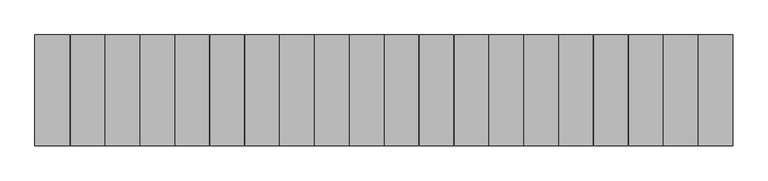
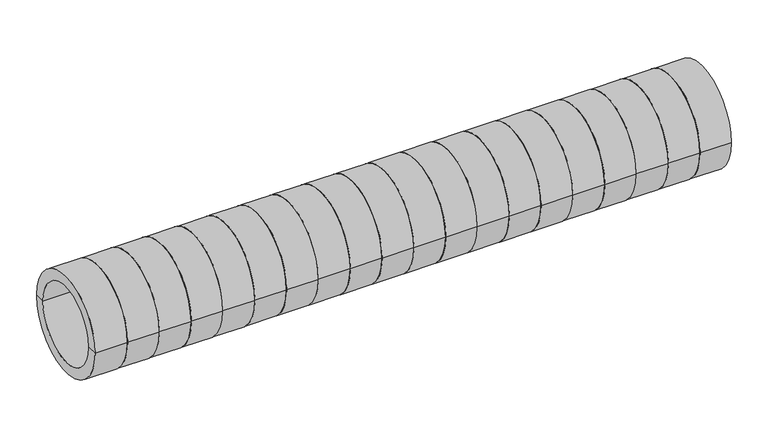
"""IFC4 building model written with IfcOpenShell, lengths in millimetres: duct fitting geometry, HEATPEX - ARIA ADURO - Rura 1m : HEATPEX - ARIA ADURO - Rura 1m."""

import ifcopenshell
import ifcopenshell.guid

model = None  # the IFC model being written
_history = None  # IfcOwnerHistory: only IFC2X3 demands one
_inside = {}  # id of a spatial element -> (the spatial element, [elements in it])
_under = {}  # id of a project, library or spatial element -> (it, [spatial elements below it])
_declared = {}  # id of a project -> (the project, [libraries it declares])
_typed = {}  # id of a type object -> (the type object, [elements of that type])
_made_of = {}  # id of a material, layer set ... -> (it, [elements and type objects made of it])


def new_model(schema):
    """Start an empty IFC model of exactly this schema.

    Asked for "IFC4X3", IfcOpenShell would pick the latest addendum, in which some entities
    have other attributes; the version numbers below select the first issue.
    IFC2X3 requires an IfcOwnerHistory on every rooted entity: one is made here for all.
    """
    global model, _history
    if schema == "IFC4X3":
        model = ifcopenshell.file(schema_version=(4, 3, 0, 0))
    else:
        model = ifcopenshell.file(schema=schema)
    _inside.clear()
    _under.clear()
    _declared.clear()
    _typed.clear()
    _made_of.clear()
    _history = None
    if model.schema == "IFC2X3":
        org = make("IfcOrganization", Name="unknown")
        user = make(
            "IfcPersonAndOrganization",
            ThePerson=make("IfcPerson", FamilyName="unknown"),
            TheOrganization=org,
        )
        app = make(
            "IfcApplication",
            ApplicationDeveloper=org,
            Version="unknown",
            ApplicationFullName="unknown",
            ApplicationIdentifier="unknown",
        )
        _history = make(
            "IfcOwnerHistory",
            OwningUser=user,
            OwningApplication=app,
            ChangeAction="ADDED",
            CreationDate=0,
        )
    return model


def make(cls, **values):
    """One entity of the class cls with the attributes given. An attribute that is None is left unset."""
    return model.create_entity(
        cls, **{name: value for name, value in values.items() if value is not None}
    )


def rooted(cls, **values):
    """An entity with a GlobalId (a new one), such as an element, a storey or a relation."""
    return make(cls, GlobalId=ifcopenshell.guid.new(), OwnerHistory=_history, **values)


def si_unit(unit_type, name, prefix=None):
    """IfcSIUnit, for example si_unit("LENGTHUNIT", "METRE", prefix="MILLI")."""
    return make("IfcSIUnit", UnitType=unit_type, Prefix=prefix, Name=name)


def assignment(units):
    """IfcUnitAssignment: the units of a project."""
    return None if units is None else make("IfcUnitAssignment", Units=units)


def point(xyz):
    """IfcCartesianPoint."""
    return None if xyz is None else make("IfcCartesianPoint", Coordinates=xyz)


def direction(xyz):
    """IfcDirection."""
    return None if xyz is None else make("IfcDirection", DirectionRatios=xyz)


def frame(location, z_axis=None, x_axis=None):
    """IfcAxis2Placement3D, a coordinate frame: its origin and axes. An axis left out is left unset."""
    return make(
        "IfcAxis2Placement3D",
        Location=point(location),
        Axis=direction(z_axis),
        RefDirection=direction(x_axis),
    )


def origin():
    """The frame at (0, 0, 0) with its axes left unset."""
    return frame((0.0, 0.0, 0.0))


def place(relative_to, where):
    """IfcLocalPlacement: puts the frame where relative to a parent placement (None: the world)."""
    return make(
        "IfcLocalPlacement", PlacementRelTo=relative_to, RelativePlacement=where
    )


def context(
    kind, dimensions, precision=None, world=None, true_north=None, identifier=None
):
    """IfcGeometricRepresentationContext, for example the 3D "Model" context."""
    return make(
        "IfcGeometricRepresentationContext",
        ContextIdentifier=identifier,
        ContextType=kind,
        CoordinateSpaceDimension=dimensions,
        Precision=precision,
        WorldCoordinateSystem=world,
        TrueNorth=true_north,
    )


def project(units=None, contexts=None):
    """IfcProject with its units and contexts."""
    return rooted(
        "IfcProject",
        Name="project",
        RepresentationContexts=contexts,
        UnitsInContext=assignment(units),
    )


def spatial(cls, under=None, at=None, **own):
    """A site, building, storey or space (cls), placed at a placement, below another one or the project."""
    s = rooted(cls, ObjectPlacement=at, **own)
    if under is not None:
        _under.setdefault(under.id(), (under, []))[1].append(s)
    return s


def polyline(points):
    """IfcPolyline through the points."""
    return make("IfcPolyline", Points=[point(p) for p in points])


def circle_curve(where, radius):
    """IfcCircle in the frame where."""
    return make("IfcCircle", Position=where, Radius=radius)


def shape(context_of_items, identifier, shape_type, items):
    """IfcShapeRepresentation: the items that make up one representation, for example the "Body"."""
    return make(
        "IfcShapeRepresentation",
        ContextOfItems=context_of_items,
        RepresentationIdentifier=identifier,
        RepresentationType=shape_type,
        Items=items,
    )


def source(mapping_origin, context_of_items, identifier, shape_type, items):
    """IfcRepresentationMap: a shape defined once, which mapped items show again and again."""
    return make(
        "IfcRepresentationMap",
        MappingOrigin=mapping_origin,
        MappedRepresentation=shape(context_of_items, identifier, shape_type, items),
    )


def transform(
    local_origin,
    x_axis=None,
    y_axis=None,
    z_axis=None,
    scale=None,
    scale2=None,
    scale3=None,
    uniform=True,
):
    """IfcCartesianTransformationOperator3D, or its non-uniform kind. x_axis, y_axis, z_axis: its Axis1, 2, 3."""
    if uniform:
        return make(
            "IfcCartesianTransformationOperator3D",
            Axis1=direction(x_axis),
            Axis2=direction(y_axis),
            LocalOrigin=point(local_origin),
            Scale=scale,
            Axis3=direction(z_axis),
        )
    return make(
        "IfcCartesianTransformationOperator3DnonUniform",
        Axis1=direction(x_axis),
        Axis2=direction(y_axis),
        LocalOrigin=point(local_origin),
        Scale=scale,
        Axis3=direction(z_axis),
        Scale2=scale2,
        Scale3=scale3,
    )


def mapped(mapping_source, mapping_target):
    """IfcMappedItem: shows the shape of a source again, moved by a transform."""
    return make(
        "IfcMappedItem", MappingSource=mapping_source, MappingTarget=mapping_target
    )


def made_of(thing, what):
    """Note that an element or type object is made of a material, layer set ...; save() writes the relation."""
    if what is not None:
        _made_of.setdefault(what.id(), (what, []))[1].append(thing)
    return thing


def element(
    cls,
    number,
    at=None,
    inside=None,
    cuts=None,
    type_object=None,
    material=None,
    context=None,
    identifier="Body",
    shape_type=None,
    held_by="IfcProductDefinitionShape",
    body=None,
    shapes=None,
    **own,
):
    """One element of the class cls, such as IfcWall. Its Tag is "e" and its number.

    at: its placement. inside: the storey or other place that contains it. cuts: it is an
    opening in that element (IfcRelVoidsElement). A single representation is given by context,
    identifier, shape_type and body (its items); several are given by shapes. held_by: the class
    of the entity that holds the representations. save() writes the other relations.
    """
    e = rooted(cls, Tag="e%d" % number, ObjectPlacement=at, **own)
    if body is not None:
        shapes = [shape(context, identifier, shape_type, body)]
    if shapes is not None:
        e.Representation = make(held_by, Representations=shapes)
    if inside is not None:
        _inside.setdefault(inside.id(), (inside, []))[1].append(e)
    if cuts is not None:
        rooted(
            "IfcRelVoidsElement", RelatingBuildingElement=cuts, RelatedOpeningElement=e
        )
    if type_object is not None:
        _typed.setdefault(type_object.id(), (type_object, []))[1].append(e)
    return made_of(e, material)


def aggregate(whole, parts):
    """IfcRelAggregates: a whole, such as a stair, and the parts it consists of."""
    return rooted("IfcRelAggregates", RelatingObject=whole, RelatedObjects=parts)


def save(model, path):
    """Write the relations noted so far, then the file.

    IfcRelAggregates (storeys below a building ...), IfcRelContainedInSpatialStructure (elements
    in a storey), IfcRelDefinesByType, IfcRelAssociatesMaterial and IfcRelDeclares: one each for
    every whole, place, type object, material and project.
    """
    for whole, parts in _under.values():
        aggregate(whole, parts)
    for where, things in _inside.values():
        rooted(
            "IfcRelContainedInSpatialStructure",
            RelatedElements=things,
            RelatingStructure=where,
        )
    for kind, things in _typed.values():
        rooted("IfcRelDefinesByType", RelatedObjects=things, RelatingType=kind)
    for what, things in _made_of.values():
        rooted("IfcRelAssociatesMaterial", RelatedObjects=things, RelatingMaterial=what)
    for by, libraries in _declared.values():
        rooted("IfcRelDeclares", RelatingContext=by, RelatedDefinitions=libraries)
    model.write(path)


def plane_surface(at):
    """IfcPlane: the flat surface through the origin of the frame at, square to its z axis."""
    return make("IfcPlane", Position=at)


def cylinder_surface(at, radius):
    """IfcCylindricalSurface: all points at the distance radius from the z axis of the frame at."""
    return make("IfcCylindricalSurface", Position=at, Radius=radius)


def revolved_surface(curve, axis_point, axis_direction):
    """IfcSurfaceOfRevolution: the curve turned about the line through axis_point along axis_direction."""
    return make(
        "IfcSurfaceOfRevolution",
        SweptCurve=make("IfcArbitraryOpenProfileDef", ProfileType="CURVE", Curve=curve),
        AxisPosition=make("IfcAxis1Placement", Location=point(axis_point), Axis=direction(axis_direction)),
    )


def advanced_brep(points, edges, surfaces, faces):
    """IfcAdvancedBrep: a solid bounded by faces that lie on surfaces and meet in shared edges.

    An edge is (start, end): straight between two places in points (the first is 0);
    or (start, end, curve); or (start, end, curve, False) where it runs against its curve.
    A face is (place in surfaces, loops), or (place, loops, False) where it looks against
    its surface's normal. A loop lists edges by number (the first is 1), with a minus sign
    where the edge is run from its end to its start. The first loop is the outer one.
    """
    corners = [point(p) for p in points]
    vertices = [make("IfcVertexPoint", VertexGeometry=c) for c in corners]
    made = []
    for start, end, *more in edges:
        made.append(
            make(
                "IfcEdgeCurve",
                EdgeStart=vertices[start],
                EdgeEnd=vertices[end],
                EdgeGeometry=more[0] if more else make("IfcPolyline", Points=[corners[start], corners[end]]),
                SameSense=more[1] if len(more) > 1 else True,
            )
        )
    hull = []
    for where, loops, *sense in faces:
        bounds = []
        for j, loop in enumerate(loops):
            ring = [make("IfcOrientedEdge", EdgeElement=made[abs(k) - 1], Orientation=k > 0) for k in loop]
            bounds.append(
                make(
                    "IfcFaceOuterBound" if j == 0 else "IfcFaceBound",
                    Bound=make("IfcEdgeLoop", EdgeList=ring),
                    Orientation=True,
                )
            )
        hull.append(make("IfcAdvancedFace", Bounds=bounds, FaceSurface=surfaces[where], SameSense=sense[0] if sense else True))
    return make("IfcAdvancedBrep", Outer=make("IfcClosedShell", CfsFaces=hull))


def duct_fitting_a0ea5269(model_context):
    return source(origin(), model_context, "Body", "AdvancedBrep", [
        advanced_brep(
        [(1000.0, -79.5, 0.0), (1000.0, 79.5, 0.0), (1000.0, 62.5, 0.0), (1000.0, -62.5, 0.0), (0.0, -79.5, 0.0), (0.0, 79.5, 0.0), (50.0, 79.5, 0.0), (50.0, -79.5, 0.0), (0.0, -62.5, 0.0), (0.0, 62.5, 0.0), (951.0, -79.5, 0.0), (951.0, 79.5, 0.0), (951.0, -78.5, 0.0), (951.0, 78.5, 0.0), (950.0, -78.5, 0.0), (950.0, 78.5, 0.0), (950.0, -79.5, 0.0), (950.0, 79.5, 0.0), (901.0, -79.5, 0.0), (901.0, 79.5, 0.0), (901.0, -78.5, 0.0), (901.0, 78.5, 0.0), (900.0, -78.5, 0.0), (900.0, 78.5, 0.0), (900.0, -79.5, 0.0), (900.0, 79.5, 0.0), (851.0, -79.5, 0.0), (851.0, 79.5, 0.0), (851.0, -78.5, 0.0), (851.0, 78.5, 0.0), (850.0, -78.5, 0.0), (850.0, 78.5, 0.0), (850.0, -79.5, 0.0), (850.0, 79.5, 0.0), (801.0, -79.5, 0.0), (801.0, 79.5, 0.0), (801.0, -78.5, 0.0), (801.0, 78.5, 0.0), (800.0, -78.5, 0.0), (800.0, 78.5, 0.0), (800.0, -79.5, 0.0), (800.0, 79.5, 0.0), (751.0, -79.5, 0.0), (751.0, 79.5, 0.0), (751.0, -78.5, 0.0), (751.0, 78.5, 0.0), (750.0, -78.5, 0.0), (750.0, 78.5, 0.0), (750.0, -79.5, 0.0), (750.0, 79.5, 0.0), (701.0, -79.5, 0.0), (701.0, 79.5, 0.0), (701.0, -78.5, 0.0), (701.0, 78.5, 0.0), (700.0, -78.5, 0.0), (700.0, 78.5, 0.0), (700.0, -79.5, 0.0), (700.0, 79.5, 0.0), (651.0, -79.5, 0.0), (651.0, 79.5, 0.0), (651.0, -78.5, 0.0), (651.0, 78.5, 0.0), (650.0, -78.5, 0.0), (650.0, 78.5, 0.0), (650.0, -79.5, 0.0), (650.0, 79.5, 0.0), (601.0, -79.5, 0.0), (601.0, 79.5, 0.0), (601.0, -78.5, 0.0), (601.0, 78.5, 0.0), (600.0, -78.5, 0.0), (600.0, 78.5, 0.0), (600.0, -79.5, 0.0), (600.0, 79.5, 0.0), (551.0, -79.5, 0.0), (551.0, 79.5, 0.0), (551.0, -78.5, 0.0), (551.0, 78.5, 0.0), (550.0, -78.5, 0.0), (550.0, 78.5, 0.0), (550.0, -79.5, 0.0), (550.0, 79.5, 0.0), (501.0, -79.5, 0.0), (501.0, 79.5, 0.0), (501.0, -78.5, 0.0), (501.0, 78.5, 0.0), (500.0, -78.5, 0.0), (500.0, 78.5, 0.0), (500.0, -79.5, 0.0), (500.0, 79.5, 0.0), (451.0, -79.5, 0.0), (451.0, 79.5, 0.0), (451.0, -78.5, 0.0), (451.0, 78.5, 0.0), (450.0, -78.5, 0.0), (450.0, 78.5, 0.0), (450.0, -79.5, 0.0), (450.0, 79.5, 0.0), (401.0, -79.5, 0.0), (401.0, 79.5, 0.0), (401.0, -78.5, 0.0), (401.0, 78.5, 0.0), (400.0, -78.5, 0.0), (400.0, 78.5, 0.0), (400.0, -79.5, 0.0), (400.0, 79.5, 0.0), (351.0, -79.5, 0.0), (351.0, 79.5, 0.0), (351.0, -78.5, 0.0), (351.0, 78.5, 0.0), (350.0, -78.5, 0.0), (350.0, 78.5, 0.0), (350.0, -79.5, 0.0), (350.0, 79.5, 0.0), (301.0, -79.5, 0.0), (301.0, 79.5, 0.0), (301.0, -78.5, 0.0), (301.0, 78.5, 0.0), (300.0, -78.5, 0.0), (300.0, 78.5, 0.0), (300.0, -79.5, 0.0), (300.0, 79.5, 0.0), (251.0, -79.5, 0.0), (251.0, 79.5, 0.0), (251.0, -78.5, 0.0), (251.0, 78.5, 0.0), (250.0, -78.5, 0.0), (250.0, 78.5, 0.0), (250.0, -79.5, 0.0), (250.0, 79.5, 0.0), (201.0, -79.5, 0.0), (201.0, 79.5, 0.0), (201.0, -78.5, 0.0), (201.0, 78.5, 0.0), (200.0, -78.5, 0.0), (200.0, 78.5, 0.0), (200.0, -79.5, 0.0), (200.0, 79.5, 0.0), (151.0, -79.5, 0.0), (151.0, 79.5, 0.0), (151.0, -78.5, 0.0), (151.0, 78.5, 0.0), (150.0, -78.5, 0.0), (150.0, 78.5, 0.0), (150.0, -79.5, 0.0), (150.0, 79.5, 0.0), (101.0, -79.5, 0.0), (101.0, 79.5, 0.0), (101.0, -78.5, 0.0), (101.0, 78.5, 0.0), (100.0, -78.5, 0.0), (100.0, 78.5, 0.0), (100.0, -79.5, 0.0), (100.0, 79.5, 0.0), (51.0, -79.5, 0.0), (51.0, 79.5, 0.0), (51.0, -78.5, 0.0), (51.0, 78.5, 0.0), (50.0, -78.5, 0.0), (50.0, 78.5, 0.0)],
        [
            (0, 1, circle_curve(frame((1000.0, 0.0, 0.0), z_axis=(1.0, 0.0, 0.0), x_axis=(0.0, 1.0, 0.0)), 79.5)),
            (1, 2),
            (2, 3, circle_curve(frame((1000.0, 0.0, 0.0), z_axis=(-1.0, 0.0, 0.0), x_axis=(0.0, 1.0, 0.0)), 62.5)),
            (3, 0),
            (1, 0, circle_curve(frame((1000.0, 0.0, 0.0), z_axis=(1.0, 0.0, 0.0), x_axis=(0.0, 1.0, 0.0)), 79.5)),
            (3, 2, circle_curve(frame((1000.0, 0.0, 0.0), z_axis=(-1.0, 0.0, 0.0), x_axis=(0.0, 1.0, 0.0)), 62.5)),
            (4, 5, circle_curve(frame((0.0, 0.0, 0.0), z_axis=(1.0, 0.0, 0.0), x_axis=(0.0, 1.0, 0.0)), 79.5)),
            (5, 6),
            (6, 7, circle_curve(frame((50.0, 0.0, 0.0), z_axis=(-1.0, 0.0, 0.0), x_axis=(0.0, 1.0, 0.0)), 79.5)),
            (7, 4),
            (5, 4, circle_curve(frame((0.0, 0.0, 0.0), z_axis=(1.0, 0.0, 0.0), x_axis=(0.0, 1.0, 0.0)), 79.5)),
            (7, 6, circle_curve(frame((50.0, 0.0, 0.0), z_axis=(-1.0, 0.0, 0.0), x_axis=(0.0, 1.0, 0.0)), 79.5)),
            (8, 9, circle_curve(frame((0.0, 0.0, 0.0), z_axis=(1.0, 0.0, 0.0), x_axis=(0.0, 1.0, 0.0)), 62.5)),
            (9, 5),
            (4, 8),
            (9, 8, circle_curve(frame((0.0, 0.0, 0.0), z_axis=(1.0, 0.0, 0.0), x_axis=(0.0, 1.0, 0.0)), 62.5)),
            (2, 9),
            (8, 3),
            (10, 11, circle_curve(frame((951.0, 0.0, 0.0), z_axis=(1.0, 0.0, 0.0), x_axis=(0.0, 1.0, 0.0)), 79.5)),
            (11, 1),
            (0, 10),
            (11, 10, circle_curve(frame((951.0, 0.0, 0.0), z_axis=(1.0, 0.0, 0.0), x_axis=(0.0, 1.0, 0.0)), 79.5)),
            (12, 13, circle_curve(frame((951.0, 0.0, 0.0), z_axis=(1.0, 0.0, 0.0), x_axis=(0.0, 1.0, 0.0)), 78.5)),
            (13, 11),
            (10, 12),
            (13, 12, circle_curve(frame((951.0, 0.0, 0.0), z_axis=(1.0, 0.0, 0.0), x_axis=(0.0, 1.0, 0.0)), 78.5)),
            (14, 15, circle_curve(frame((950.0, 0.0, 0.0), z_axis=(1.0, 0.0, 0.0), x_axis=(0.0, 1.0, 0.0)), 78.5)),
            (15, 13),
            (12, 14),
            (15, 14, circle_curve(frame((950.0, 0.0, 0.0), z_axis=(1.0, 0.0, 0.0), x_axis=(0.0, 1.0, 0.0)), 78.5)),
            (16, 17, circle_curve(frame((950.0, 0.0, 0.0), z_axis=(1.0, 0.0, 0.0), x_axis=(0.0, 1.0, 0.0)), 79.5)),
            (17, 15),
            (14, 16),
            (17, 16, circle_curve(frame((950.0, 0.0, 0.0), z_axis=(1.0, 0.0, 0.0), x_axis=(0.0, 1.0, 0.0)), 79.5)),
            (18, 19, circle_curve(frame((901.0, 0.0, 0.0), z_axis=(1.0, 0.0, 0.0), x_axis=(0.0, 1.0, 0.0)), 79.5)),
            (19, 17),
            (16, 18),
            (19, 18, circle_curve(frame((901.0, 0.0, 0.0), z_axis=(1.0, 0.0, 0.0), x_axis=(0.0, 1.0, 0.0)), 79.5)),
            (20, 21, circle_curve(frame((901.0, 0.0, 0.0), z_axis=(1.0, 0.0, 0.0), x_axis=(0.0, 1.0, 0.0)), 78.5)),
            (21, 19),
            (18, 20),
            (21, 20, circle_curve(frame((901.0, 0.0, 0.0), z_axis=(1.0, 0.0, 0.0), x_axis=(0.0, 1.0, 0.0)), 78.5)),
            (22, 23, circle_curve(frame((900.0, 0.0, 0.0), z_axis=(1.0, 0.0, 0.0), x_axis=(0.0, 1.0, 0.0)), 78.5)),
            (23, 21),
            (20, 22),
            (23, 22, circle_curve(frame((900.0, 0.0, 0.0), z_axis=(1.0, 0.0, 0.0), x_axis=(0.0, 1.0, 0.0)), 78.5)),
            (24, 25, circle_curve(frame((900.0, 0.0, 0.0), z_axis=(1.0, 0.0, 0.0), x_axis=(0.0, 1.0, 0.0)), 79.5)),
            (25, 23),
            (22, 24),
            (25, 24, circle_curve(frame((900.0, 0.0, 0.0), z_axis=(1.0, 0.0, 0.0), x_axis=(0.0, 1.0, 0.0)), 79.5)),
            (26, 27, circle_curve(frame((851.0, 0.0, 0.0), z_axis=(1.0, 0.0, 0.0), x_axis=(0.0, 1.0, 0.0)), 79.5)),
            (27, 25),
            (24, 26),
            (27, 26, circle_curve(frame((851.0, 0.0, 0.0), z_axis=(1.0, 0.0, 0.0), x_axis=(0.0, 1.0, 0.0)), 79.5)),
            (28, 29, circle_curve(frame((851.0, 0.0, 0.0), z_axis=(1.0, 0.0, 0.0), x_axis=(0.0, 1.0, 0.0)), 78.5)),
            (29, 27),
            (26, 28),
            (29, 28, circle_curve(frame((851.0, 0.0, 0.0), z_axis=(1.0, 0.0, 0.0), x_axis=(0.0, 1.0, 0.0)), 78.5)),
            (30, 31, circle_curve(frame((850.0, 0.0, 0.0), z_axis=(1.0, 0.0, 0.0), x_axis=(0.0, 1.0, 0.0)), 78.5)),
            (31, 29),
            (28, 30),
            (31, 30, circle_curve(frame((850.0, 0.0, 0.0), z_axis=(1.0, 0.0, 0.0), x_axis=(0.0, 1.0, 0.0)), 78.5)),
            (32, 33, circle_curve(frame((850.0, 0.0, 0.0), z_axis=(1.0, 0.0, 0.0), x_axis=(0.0, 1.0, 0.0)), 79.5)),
            (33, 31),
            (30, 32),
            (33, 32, circle_curve(frame((850.0, 0.0, 0.0), z_axis=(1.0, 0.0, 0.0), x_axis=(0.0, 1.0, 0.0)), 79.5)),
            (34, 35, circle_curve(frame((801.0, 0.0, 0.0), z_axis=(1.0, 0.0, 0.0), x_axis=(0.0, 1.0, 0.0)), 79.5)),
            (35, 33),
            (32, 34),
            (35, 34, circle_curve(frame((801.0, 0.0, 0.0), z_axis=(1.0, 0.0, 0.0), x_axis=(0.0, 1.0, 0.0)), 79.5)),
            (36, 37, circle_curve(frame((801.0, 0.0, 0.0), z_axis=(1.0, 0.0, 0.0), x_axis=(0.0, 1.0, 0.0)), 78.5)),
            (37, 35),
            (34, 36),
            (37, 36, circle_curve(frame((801.0, 0.0, 0.0), z_axis=(1.0, 0.0, 0.0), x_axis=(0.0, 1.0, 0.0)), 78.5)),
            (38, 39, circle_curve(frame((800.0, 0.0, 0.0), z_axis=(1.0, 0.0, 0.0), x_axis=(0.0, 1.0, 0.0)), 78.5)),
            (39, 37),
            (36, 38),
            (39, 38, circle_curve(frame((800.0, 0.0, 0.0), z_axis=(1.0, 0.0, 0.0), x_axis=(0.0, 1.0, 0.0)), 78.5)),
            (40, 41, circle_curve(frame((800.0, 0.0, 0.0), z_axis=(1.0, 0.0, 0.0), x_axis=(0.0, 1.0, 0.0)), 79.5)),
            (41, 39),
            (38, 40),
            (41, 40, circle_curve(frame((800.0, 0.0, 0.0), z_axis=(1.0, 0.0, 0.0), x_axis=(0.0, 1.0, 0.0)), 79.5)),
            (42, 43, circle_curve(frame((751.0, 0.0, 0.0), z_axis=(1.0, 0.0, 0.0), x_axis=(0.0, 1.0, 0.0)), 79.5)),
            (43, 41),
            (40, 42),
            (43, 42, circle_curve(frame((751.0, 0.0, 0.0), z_axis=(1.0, 0.0, 0.0), x_axis=(0.0, 1.0, 0.0)), 79.5)),
            (44, 45, circle_curve(frame((751.0, 0.0, 0.0), z_axis=(1.0, 0.0, 0.0), x_axis=(0.0, 1.0, 0.0)), 78.5)),
            (45, 43),
            (42, 44),
            (45, 44, circle_curve(frame((751.0, 0.0, 0.0), z_axis=(1.0, 0.0, 0.0), x_axis=(0.0, 1.0, 0.0)), 78.5)),
            (46, 47, circle_curve(frame((750.0, 0.0, 0.0), z_axis=(1.0, 0.0, 0.0), x_axis=(0.0, 1.0, 0.0)), 78.5)),
            (47, 45),
            (44, 46),
            (47, 46, circle_curve(frame((750.0, 0.0, 0.0), z_axis=(1.0, 0.0, 0.0), x_axis=(0.0, 1.0, 0.0)), 78.5)),
            (48, 49, circle_curve(frame((750.0, 0.0, 0.0), z_axis=(1.0, 0.0, 0.0), x_axis=(0.0, 1.0, 0.0)), 79.5)),
            (49, 47),
            (46, 48),
            (49, 48, circle_curve(frame((750.0, 0.0, 0.0), z_axis=(1.0, 0.0, 0.0), x_axis=(0.0, 1.0, 0.0)), 79.5)),
            (50, 51, circle_curve(frame((701.0, 0.0, 0.0), z_axis=(1.0, 0.0, 0.0), x_axis=(0.0, 1.0, 0.0)), 79.5)),
            (51, 49),
            (48, 50),
            (51, 50, circle_curve(frame((701.0, 0.0, 0.0), z_axis=(1.0, 0.0, 0.0), x_axis=(0.0, 1.0, 0.0)), 79.5)),
            (52, 53, circle_curve(frame((701.0, 0.0, 0.0), z_axis=(1.0, 0.0, 0.0), x_axis=(0.0, 1.0, 0.0)), 78.5)),
            (53, 51),
            (50, 52),
            (53, 52, circle_curve(frame((701.0, 0.0, 0.0), z_axis=(1.0, 0.0, 0.0), x_axis=(0.0, 1.0, 0.0)), 78.5)),
            (54, 55, circle_curve(frame((700.0, 0.0, 0.0), z_axis=(1.0, 0.0, 0.0), x_axis=(0.0, 1.0, 0.0)), 78.5)),
            (55, 53),
            (52, 54),
            (55, 54, circle_curve(frame((700.0, 0.0, 0.0), z_axis=(1.0, 0.0, 0.0), x_axis=(0.0, 1.0, 0.0)), 78.5)),
            (56, 57, circle_curve(frame((700.0, 0.0, 0.0), z_axis=(1.0, 0.0, 0.0), x_axis=(0.0, 1.0, 0.0)), 79.5)),
            (57, 55),
            (54, 56),
            (57, 56, circle_curve(frame((700.0, 0.0, 0.0), z_axis=(1.0, 0.0, 0.0), x_axis=(0.0, 1.0, 0.0)), 79.5)),
            (58, 59, circle_curve(frame((651.0, 0.0, 0.0), z_axis=(1.0, 0.0, 0.0), x_axis=(0.0, 1.0, 0.0)), 79.5)),
            (59, 57),
            (56, 58),
            (59, 58, circle_curve(frame((651.0, 0.0, 0.0), z_axis=(1.0, 0.0, 0.0), x_axis=(0.0, 1.0, 0.0)), 79.5)),
            (60, 61, circle_curve(frame((651.0, 0.0, 0.0), z_axis=(1.0, 0.0, 0.0), x_axis=(0.0, 1.0, 0.0)), 78.5)),
            (61, 59),
            (58, 60),
            (61, 60, circle_curve(frame((651.0, 0.0, 0.0), z_axis=(1.0, 0.0, 0.0), x_axis=(0.0, 1.0, 0.0)), 78.5)),
            (62, 63, circle_curve(frame((650.0, 0.0, 0.0), z_axis=(1.0, 0.0, 0.0), x_axis=(0.0, 1.0, 0.0)), 78.5)),
            (63, 61),
            (60, 62),
            (63, 62, circle_curve(frame((650.0, 0.0, 0.0), z_axis=(1.0, 0.0, 0.0), x_axis=(0.0, 1.0, 0.0)), 78.5)),
            (64, 65, circle_curve(frame((650.0, 0.0, 0.0), z_axis=(1.0, 0.0, 0.0), x_axis=(0.0, 1.0, 0.0)), 79.5)),
            (65, 63),
            (62, 64),
            (65, 64, circle_curve(frame((650.0, 0.0, 0.0), z_axis=(1.0, 0.0, 0.0), x_axis=(0.0, 1.0, 0.0)), 79.5)),
            (66, 67, circle_curve(frame((601.0, 0.0, 0.0), z_axis=(1.0, 0.0, 0.0), x_axis=(0.0, 1.0, 0.0)), 79.5)),
            (67, 65),
            (64, 66),
            (67, 66, circle_curve(frame((601.0, 0.0, 0.0), z_axis=(1.0, 0.0, 0.0), x_axis=(0.0, 1.0, 0.0)), 79.5)),
            (68, 69, circle_curve(frame((601.0, 0.0, 0.0), z_axis=(1.0, 0.0, 0.0), x_axis=(0.0, 1.0, 0.0)), 78.5)),
            (69, 67),
            (66, 68),
            (69, 68, circle_curve(frame((601.0, 0.0, 0.0), z_axis=(1.0, 0.0, 0.0), x_axis=(0.0, 1.0, 0.0)), 78.5)),
            (70, 71, circle_curve(frame((600.0, 0.0, 0.0), z_axis=(1.0, 0.0, 0.0), x_axis=(0.0, 1.0, 0.0)), 78.5)),
            (71, 69),
            (68, 70),
            (71, 70, circle_curve(frame((600.0, 0.0, 0.0), z_axis=(1.0, 0.0, 0.0), x_axis=(0.0, 1.0, 0.0)), 78.5)),
            (72, 73, circle_curve(frame((600.0, 0.0, 0.0), z_axis=(1.0, 0.0, 0.0), x_axis=(0.0, 1.0, 0.0)), 79.5)),
            (73, 71),
            (70, 72),
            (73, 72, circle_curve(frame((600.0, 0.0, 0.0), z_axis=(1.0, 0.0, 0.0), x_axis=(0.0, 1.0, 0.0)), 79.5)),
            (74, 75, circle_curve(frame((551.0, 0.0, 0.0), z_axis=(1.0, 0.0, 0.0), x_axis=(0.0, 1.0, 0.0)), 79.5)),
            (75, 73),
            (72, 74),
            (75, 74, circle_curve(frame((551.0, 0.0, 0.0), z_axis=(1.0, 0.0, 0.0), x_axis=(0.0, 1.0, 0.0)), 79.5)),
            (76, 77, circle_curve(frame((551.0, 0.0, 0.0), z_axis=(1.0, 0.0, 0.0), x_axis=(0.0, 1.0, 0.0)), 78.5)),
            (77, 75),
            (74, 76),
            (77, 76, circle_curve(frame((551.0, 0.0, 0.0), z_axis=(1.0, 0.0, 0.0), x_axis=(0.0, 1.0, 0.0)), 78.5)),
            (78, 79, circle_curve(frame((550.0, 0.0, 0.0), z_axis=(1.0, 0.0, 0.0), x_axis=(0.0, 1.0, 0.0)), 78.5)),
            (79, 77),
            (76, 78),
            (79, 78, circle_curve(frame((550.0, 0.0, 0.0), z_axis=(1.0, 0.0, 0.0), x_axis=(0.0, 1.0, 0.0)), 78.5)),
            (80, 81, circle_curve(frame((550.0, 0.0, 0.0), z_axis=(1.0, 0.0, 0.0), x_axis=(0.0, 1.0, 0.0)), 79.5)),
            (81, 79),
            (78, 80),
            (81, 80, circle_curve(frame((550.0, 0.0, 0.0), z_axis=(1.0, 0.0, 0.0), x_axis=(0.0, 1.0, 0.0)), 79.5)),
            (82, 83, circle_curve(frame((501.0, 0.0, 0.0), z_axis=(1.0, 0.0, 0.0), x_axis=(0.0, 1.0, 0.0)), 79.5)),
            (83, 81),
            (80, 82),
            (83, 82, circle_curve(frame((501.0, 0.0, 0.0), z_axis=(1.0, 0.0, 0.0), x_axis=(0.0, 1.0, 0.0)), 79.5)),
            (84, 85, circle_curve(frame((501.0, 0.0, 0.0), z_axis=(1.0, 0.0, 0.0), x_axis=(0.0, 1.0, 0.0)), 78.5)),
            (85, 83),
            (82, 84),
            (85, 84, circle_curve(frame((501.0, 0.0, 0.0), z_axis=(1.0, 0.0, 0.0), x_axis=(0.0, 1.0, 0.0)), 78.5)),
            (86, 87, circle_curve(frame((500.0, 0.0, 0.0), z_axis=(1.0, 0.0, 0.0), x_axis=(0.0, 1.0, 0.0)), 78.5)),
            (87, 85),
            (84, 86),
            (87, 86, circle_curve(frame((500.0, 0.0, 0.0), z_axis=(1.0, 0.0, 0.0), x_axis=(0.0, 1.0, 0.0)), 78.5)),
            (88, 89, circle_curve(frame((500.0, 0.0, 0.0), z_axis=(1.0, 0.0, 0.0), x_axis=(0.0, 1.0, 0.0)), 79.5)),
            (89, 87),
            (86, 88),
            (89, 88, circle_curve(frame((500.0, 0.0, 0.0), z_axis=(1.0, 0.0, 0.0), x_axis=(0.0, 1.0, 0.0)), 79.5)),
            (90, 91, circle_curve(frame((451.0, 0.0, 0.0), z_axis=(1.0, 0.0, 0.0), x_axis=(0.0, 1.0, 0.0)), 79.5)),
            (91, 89),
            (88, 90),
            (91, 90, circle_curve(frame((451.0, 0.0, 0.0), z_axis=(1.0, 0.0, 0.0), x_axis=(0.0, 1.0, 0.0)), 79.5)),
            (92, 93, circle_curve(frame((451.0, 0.0, 0.0), z_axis=(1.0, 0.0, 0.0), x_axis=(0.0, 1.0, 0.0)), 78.5)),
            (93, 91),
            (90, 92),
            (93, 92, circle_curve(frame((451.0, 0.0, 0.0), z_axis=(1.0, 0.0, 0.0), x_axis=(0.0, 1.0, 0.0)), 78.5)),
            (94, 95, circle_curve(frame((450.0, 0.0, 0.0), z_axis=(1.0, 0.0, 0.0), x_axis=(0.0, 1.0, 0.0)), 78.5)),
            (95, 93),
            (92, 94),
            (95, 94, circle_curve(frame((450.0, 0.0, 0.0), z_axis=(1.0, 0.0, 0.0), x_axis=(0.0, 1.0, 0.0)), 78.5)),
            (96, 97, circle_curve(frame((450.0, 0.0, 0.0), z_axis=(1.0, 0.0, 0.0), x_axis=(0.0, 1.0, 0.0)), 79.5)),
            (97, 95),
            (94, 96),
            (97, 96, circle_curve(frame((450.0, 0.0, 0.0), z_axis=(1.0, 0.0, 0.0), x_axis=(0.0, 1.0, 0.0)), 79.5)),
            (98, 99, circle_curve(frame((401.0, 0.0, 0.0), z_axis=(1.0, 0.0, 0.0), x_axis=(0.0, 1.0, 0.0)), 79.5)),
            (99, 97),
            (96, 98),
            (99, 98, circle_curve(frame((401.0, 0.0, 0.0), z_axis=(1.0, 0.0, 0.0), x_axis=(0.0, 1.0, 0.0)), 79.5)),
            (100, 101, circle_curve(frame((401.0, 0.0, 0.0), z_axis=(1.0, 0.0, 0.0), x_axis=(0.0, 1.0, 0.0)), 78.5)),
            (101, 99),
            (98, 100),
            (101, 100, circle_curve(frame((401.0, 0.0, 0.0), z_axis=(1.0, 0.0, 0.0), x_axis=(0.0, 1.0, 0.0)), 78.5)),
            (102, 103, circle_curve(frame((400.0, 0.0, 0.0), z_axis=(1.0, 0.0, 0.0), x_axis=(0.0, 1.0, 0.0)), 78.5)),
            (103, 101),
            (100, 102),
            (103, 102, circle_curve(frame((400.0, 0.0, 0.0), z_axis=(1.0, 0.0, 0.0), x_axis=(0.0, 1.0, 0.0)), 78.5)),
            (104, 105, circle_curve(frame((400.0, 0.0, 0.0), z_axis=(1.0, 0.0, 0.0), x_axis=(0.0, 1.0, 0.0)), 79.5)),
            (105, 103),
            (102, 104),
            (105, 104, circle_curve(frame((400.0, 0.0, 0.0), z_axis=(1.0, 0.0, 0.0), x_axis=(0.0, 1.0, 0.0)), 79.5)),
            (106, 107, circle_curve(frame((351.0, 0.0, 0.0), z_axis=(1.0, 0.0, 0.0), x_axis=(0.0, 1.0, 0.0)), 79.5)),
            (107, 105),
            (104, 106),
            (107, 106, circle_curve(frame((351.0, 0.0, 0.0), z_axis=(1.0, 0.0, 0.0), x_axis=(0.0, 1.0, 0.0)), 79.5)),
            (108, 109, circle_curve(frame((351.0, 0.0, 0.0), z_axis=(1.0, 0.0, 0.0), x_axis=(0.0, 1.0, 0.0)), 78.5)),
            (109, 107),
            (106, 108),
            (109, 108, circle_curve(frame((351.0, 0.0, 0.0), z_axis=(1.0, 0.0, 0.0), x_axis=(0.0, 1.0, 0.0)), 78.5)),
            (110, 111, circle_curve(frame((350.0, 0.0, 0.0), z_axis=(1.0, 0.0, 0.0), x_axis=(0.0, 1.0, 0.0)), 78.5)),
            (111, 109),
            (108, 110),
            (111, 110, circle_curve(frame((350.0, 0.0, 0.0), z_axis=(1.0, 0.0, 0.0), x_axis=(0.0, 1.0, 0.0)), 78.5)),
            (112, 113, circle_curve(frame((350.0, 0.0, 0.0), z_axis=(1.0, 0.0, 0.0), x_axis=(0.0, 1.0, 0.0)), 79.5)),
            (113, 111),
            (110, 112),
            (113, 112, circle_curve(frame((350.0, 0.0, 0.0), z_axis=(1.0, 0.0, 0.0), x_axis=(0.0, 1.0, 0.0)), 79.5)),
            (114, 115, circle_curve(frame((301.0, 0.0, 0.0), z_axis=(1.0, 0.0, 0.0), x_axis=(0.0, 1.0, 0.0)), 79.5)),
            (115, 113),
            (112, 114),
            (115, 114, circle_curve(frame((301.0, 0.0, 0.0), z_axis=(1.0, 0.0, 0.0), x_axis=(0.0, 1.0, 0.0)), 79.5)),
            (116, 117, circle_curve(frame((301.0, 0.0, 0.0), z_axis=(1.0, 0.0, 0.0), x_axis=(0.0, 1.0, 0.0)), 78.5)),
            (117, 115),
            (114, 116),
            (117, 116, circle_curve(frame((301.0, 0.0, 0.0), z_axis=(1.0, 0.0, 0.0), x_axis=(0.0, 1.0, 0.0)), 78.5)),
            (118, 119, circle_curve(frame((300.0, 0.0, 0.0), z_axis=(1.0, 0.0, 0.0), x_axis=(0.0, 1.0, 0.0)), 78.5)),
            (119, 117),
            (116, 118),
            (119, 118, circle_curve(frame((300.0, 0.0, 0.0), z_axis=(1.0, 0.0, 0.0), x_axis=(0.0, 1.0, 0.0)), 78.5)),
            (120, 121, circle_curve(frame((300.0, 0.0, 0.0), z_axis=(1.0, 0.0, 0.0), x_axis=(0.0, 1.0, 0.0)), 79.5)),
            (121, 119),
            (118, 120),
            (121, 120, circle_curve(frame((300.0, 0.0, 0.0), z_axis=(1.0, 0.0, 0.0), x_axis=(0.0, 1.0, 0.0)), 79.5)),
            (122, 123, circle_curve(frame((251.0, 0.0, 0.0), z_axis=(1.0, 0.0, 0.0), x_axis=(0.0, 1.0, 0.0)), 79.5)),
            (123, 121),
            (120, 122),
            (123, 122, circle_curve(frame((251.0, 0.0, 0.0), z_axis=(1.0, 0.0, 0.0), x_axis=(0.0, 1.0, 0.0)), 79.5)),
            (124, 125, circle_curve(frame((251.0, 0.0, 0.0), z_axis=(1.0, 0.0, 0.0), x_axis=(0.0, 1.0, 0.0)), 78.5)),
            (125, 123),
            (122, 124),
            (125, 124, circle_curve(frame((251.0, 0.0, 0.0), z_axis=(1.0, 0.0, 0.0), x_axis=(0.0, 1.0, 0.0)), 78.5)),
            (126, 127, circle_curve(frame((250.0, 0.0, 0.0), z_axis=(1.0, 0.0, 0.0), x_axis=(0.0, 1.0, 0.0)), 78.5)),
            (127, 125),
            (124, 126),
            (127, 126, circle_curve(frame((250.0, 0.0, 0.0), z_axis=(1.0, 0.0, 0.0), x_axis=(0.0, 1.0, 0.0)), 78.5)),
            (128, 129, circle_curve(frame((250.0, 0.0, 0.0), z_axis=(1.0, 0.0, 0.0), x_axis=(0.0, 1.0, 0.0)), 79.5)),
            (129, 127),
            (126, 128),
            (129, 128, circle_curve(frame((250.0, 0.0, 0.0), z_axis=(1.0, 0.0, 0.0), x_axis=(0.0, 1.0, 0.0)), 79.5)),
            (130, 131, circle_curve(frame((201.0, 0.0, 0.0), z_axis=(1.0, 0.0, 0.0), x_axis=(0.0, 1.0, 0.0)), 79.5)),
            (131, 129),
            (128, 130),
            (131, 130, circle_curve(frame((201.0, 0.0, 0.0), z_axis=(1.0, 0.0, 0.0), x_axis=(0.0, 1.0, 0.0)), 79.5)),
            (132, 133, circle_curve(frame((201.0, 0.0, 0.0), z_axis=(1.0, 0.0, 0.0), x_axis=(0.0, 1.0, 0.0)), 78.5)),
            (133, 131),
            (130, 132),
            (133, 132, circle_curve(frame((201.0, 0.0, 0.0), z_axis=(1.0, 0.0, 0.0), x_axis=(0.0, 1.0, 0.0)), 78.5)),
            (134, 135, circle_curve(frame((200.0, 0.0, 0.0), z_axis=(1.0, 0.0, 0.0), x_axis=(0.0, 1.0, 0.0)), 78.5)),
            (135, 133),
            (132, 134),
            (135, 134, circle_curve(frame((200.0, 0.0, 0.0), z_axis=(1.0, 0.0, 0.0), x_axis=(0.0, 1.0, 0.0)), 78.5)),
            (136, 137, circle_curve(frame((200.0, 0.0, 0.0), z_axis=(1.0, 0.0, 0.0), x_axis=(0.0, 1.0, 0.0)), 79.5)),
            (137, 135),
            (134, 136),
            (137, 136, circle_curve(frame((200.0, 0.0, 0.0), z_axis=(1.0, 0.0, 0.0), x_axis=(0.0, 1.0, 0.0)), 79.5)),
            (138, 139, circle_curve(frame((151.0, 0.0, 0.0), z_axis=(1.0, 0.0, 0.0), x_axis=(0.0, 1.0, 0.0)), 79.5)),
            (139, 137),
            (136, 138),
            (139, 138, circle_curve(frame((151.0, 0.0, 0.0), z_axis=(1.0, 0.0, 0.0), x_axis=(0.0, 1.0, 0.0)), 79.5)),
            (140, 141, circle_curve(frame((151.0, 0.0, 0.0), z_axis=(1.0, 0.0, 0.0), x_axis=(0.0, 1.0, 0.0)), 78.5)),
            (141, 139),
            (138, 140),
            (141, 140, circle_curve(frame((151.0, 0.0, 0.0), z_axis=(1.0, 0.0, 0.0), x_axis=(0.0, 1.0, 0.0)), 78.5)),
            (142, 143, circle_curve(frame((150.0, 0.0, 0.0), z_axis=(1.0, 0.0, 0.0), x_axis=(0.0, 1.0, 0.0)), 78.5)),
            (143, 141),
            (140, 142),
            (143, 142, circle_curve(frame((150.0, 0.0, 0.0), z_axis=(1.0, 0.0, 0.0), x_axis=(0.0, 1.0, 0.0)), 78.5)),
            (144, 145, circle_curve(frame((150.0, 0.0, 0.0), z_axis=(1.0, 0.0, 0.0), x_axis=(0.0, 1.0, 0.0)), 79.5)),
            (145, 143),
            (142, 144),
            (145, 144, circle_curve(frame((150.0, 0.0, 0.0), z_axis=(1.0, 0.0, 0.0), x_axis=(0.0, 1.0, 0.0)), 79.5)),
            (146, 147, circle_curve(frame((101.0, 0.0, 0.0), z_axis=(1.0, 0.0, 0.0), x_axis=(0.0, 1.0, 0.0)), 79.5)),
            (147, 145),
            (144, 146),
            (147, 146, circle_curve(frame((101.0, 0.0, 0.0), z_axis=(1.0, 0.0, 0.0), x_axis=(0.0, 1.0, 0.0)), 79.5)),
            (148, 149, circle_curve(frame((101.0, 0.0, 0.0), z_axis=(1.0, 0.0, 0.0), x_axis=(0.0, 1.0, 0.0)), 78.5)),
            (149, 147),
            (146, 148),
            (149, 148, circle_curve(frame((101.0, 0.0, 0.0), z_axis=(1.0, 0.0, 0.0), x_axis=(0.0, 1.0, 0.0)), 78.5)),
            (150, 151, circle_curve(frame((100.0, 0.0, 0.0), z_axis=(1.0, 0.0, 0.0), x_axis=(0.0, 1.0, 0.0)), 78.5)),
            (151, 149),
            (148, 150),
            (151, 150, circle_curve(frame((100.0, 0.0, 0.0), z_axis=(1.0, 0.0, 0.0), x_axis=(0.0, 1.0, 0.0)), 78.5)),
            (152, 153, circle_curve(frame((100.0, 0.0, 0.0), z_axis=(1.0, 0.0, 0.0), x_axis=(0.0, 1.0, 0.0)), 79.5)),
            (153, 151),
            (150, 152),
            (153, 152, circle_curve(frame((100.0, 0.0, 0.0), z_axis=(1.0, 0.0, 0.0), x_axis=(0.0, 1.0, 0.0)), 79.5)),
            (154, 155, circle_curve(frame((51.0, 0.0, 0.0), z_axis=(1.0, 0.0, 0.0), x_axis=(0.0, 1.0, 0.0)), 79.5)),
            (155, 153),
            (152, 154),
            (155, 154, circle_curve(frame((51.0, 0.0, 0.0), z_axis=(1.0, 0.0, 0.0), x_axis=(0.0, 1.0, 0.0)), 79.5)),
            (156, 157, circle_curve(frame((51.0, 0.0, 0.0), z_axis=(1.0, 0.0, 0.0), x_axis=(0.0, 1.0, 0.0)), 78.5)),
            (157, 155),
            (154, 156),
            (157, 156, circle_curve(frame((51.0, 0.0, 0.0), z_axis=(1.0, 0.0, 0.0), x_axis=(0.0, 1.0, 0.0)), 78.5)),
            (158, 159, circle_curve(frame((50.0, 0.0, 0.0), z_axis=(1.0, 0.0, 0.0), x_axis=(0.0, 1.0, 0.0)), 78.5)),
            (159, 157),
            (156, 158),
            (159, 158, circle_curve(frame((50.0, 0.0, 0.0), z_axis=(1.0, 0.0, 0.0), x_axis=(0.0, 1.0, 0.0)), 78.5)),
            (6, 159),
            (158, 7),
        ],
        [
            plane_surface(frame((1000.0, 0.0, 0.0), z_axis=(1.0, 0.0, 0.0), x_axis=(0.0, 1.0, 0.0))),
            cylinder_surface(frame((845.0, 0.0, 0.0), z_axis=(-1.0, 0.0, 0.0), x_axis=(0.0, 1.0, 0.0)), 79.5),
            plane_surface(frame((0.0, 0.0, 0.0), z_axis=(-1.0, 0.0, 0.0), x_axis=(0.0, 1.0, 0.0))),
            revolved_surface(polyline([(0.0, 62.5, 0.0), (1000.0, 62.5, 0.0)]), (845.0, 0.0, 0.0), (-1.0, 0.0, 0.0)),
            plane_surface(frame((951.0, 0.0, 0.0), z_axis=(-1.0, 0.0, 0.0), x_axis=(0.0, 1.0, 0.0))),
            cylinder_surface(frame((845.0, 0.0, 0.0), z_axis=(-1.0, 0.0, 0.0), x_axis=(0.0, 1.0, 0.0)), 78.5),
            plane_surface(frame((950.0, 0.0, 0.0), z_axis=(1.0, 0.0, 0.0), x_axis=(0.0, 1.0, 0.0))),
            plane_surface(frame((901.0, 0.0, 0.0), z_axis=(-1.0, 0.0, 0.0), x_axis=(0.0, 1.0, 0.0))),
            plane_surface(frame((900.0, 0.0, 0.0), z_axis=(1.0, 0.0, 0.0), x_axis=(0.0, 1.0, 0.0))),
            plane_surface(frame((851.0, 0.0, 0.0), z_axis=(-1.0, 0.0, 0.0), x_axis=(0.0, 1.0, 0.0))),
            plane_surface(frame((850.0, 0.0, 0.0), z_axis=(1.0, 0.0, 0.0), x_axis=(0.0, 1.0, 0.0))),
            plane_surface(frame((801.0, 0.0, 0.0), z_axis=(-1.0, 0.0, 0.0), x_axis=(0.0, 1.0, 0.0))),
            plane_surface(frame((800.0, 0.0, 0.0), z_axis=(1.0, 0.0, 0.0), x_axis=(0.0, 1.0, 0.0))),
            plane_surface(frame((751.0, 0.0, 0.0), z_axis=(-1.0, 0.0, 0.0), x_axis=(0.0, 1.0, 0.0))),
            plane_surface(frame((750.0, 0.0, 0.0), z_axis=(1.0, 0.0, 0.0), x_axis=(0.0, 1.0, 0.0))),
            plane_surface(frame((701.0, 0.0, 0.0), z_axis=(-1.0, 0.0, 0.0), x_axis=(0.0, 1.0, 0.0))),
            plane_surface(frame((700.0, 0.0, 0.0), z_axis=(1.0, 0.0, 0.0), x_axis=(0.0, 1.0, 0.0))),
            plane_surface(frame((651.0, 0.0, 0.0), z_axis=(-1.0, 0.0, 0.0), x_axis=(0.0, 1.0, 0.0))),
            plane_surface(frame((650.0, 0.0, 0.0), z_axis=(1.0, 0.0, 0.0), x_axis=(0.0, 1.0, 0.0))),
            plane_surface(frame((601.0, 0.0, 0.0), z_axis=(-1.0, 0.0, 0.0), x_axis=(0.0, 1.0, 0.0))),
            plane_surface(frame((600.0, 0.0, 0.0), z_axis=(1.0, 0.0, 0.0), x_axis=(0.0, 1.0, 0.0))),
            plane_surface(frame((551.0, 0.0, 0.0), z_axis=(-1.0, 0.0, 0.0), x_axis=(0.0, 1.0, 0.0))),
            plane_surface(frame((550.0, 0.0, 0.0), z_axis=(1.0, 0.0, 0.0), x_axis=(0.0, 1.0, 0.0))),
            plane_surface(frame((501.0, 0.0, 0.0), z_axis=(-1.0, 0.0, 0.0), x_axis=(0.0, 1.0, 0.0))),
            plane_surface(frame((500.0, 0.0, 0.0), z_axis=(1.0, 0.0, 0.0), x_axis=(0.0, 1.0, 0.0))),
            plane_surface(frame((451.0, 0.0, 0.0), z_axis=(-1.0, 0.0, 0.0), x_axis=(0.0, 1.0, 0.0))),
            plane_surface(frame((450.0, 0.0, 0.0), z_axis=(1.0, 0.0, 0.0), x_axis=(0.0, 1.0, 0.0))),
            plane_surface(frame((401.0, 0.0, 0.0), z_axis=(-1.0, 0.0, 0.0), x_axis=(0.0, 1.0, 0.0))),
            plane_surface(frame((400.0, 0.0, 0.0), z_axis=(1.0, 0.0, 0.0), x_axis=(0.0, 1.0, 0.0))),
            plane_surface(frame((351.0, 0.0, 0.0), z_axis=(-1.0, 0.0, 0.0), x_axis=(0.0, 1.0, 0.0))),
            plane_surface(frame((350.0, 0.0, 0.0), z_axis=(1.0, 0.0, 0.0), x_axis=(0.0, 1.0, 0.0))),
            plane_surface(frame((301.0, 0.0, 0.0), z_axis=(-1.0, 0.0, 0.0), x_axis=(0.0, 1.0, 0.0))),
            plane_surface(frame((300.0, 0.0, 0.0), z_axis=(1.0, 0.0, 0.0), x_axis=(0.0, 1.0, 0.0))),
            plane_surface(frame((251.0, 0.0, 0.0), z_axis=(-1.0, 0.0, 0.0), x_axis=(0.0, 1.0, 0.0))),
            plane_surface(frame((250.0, 0.0, 0.0), z_axis=(1.0, 0.0, 0.0), x_axis=(0.0, 1.0, 0.0))),
            plane_surface(frame((201.0, 0.0, 0.0), z_axis=(-1.0, 0.0, 0.0), x_axis=(0.0, 1.0, 0.0))),
            plane_surface(frame((200.0, 0.0, 0.0), z_axis=(1.0, 0.0, 0.0), x_axis=(0.0, 1.0, 0.0))),
            plane_surface(frame((151.0, 0.0, 0.0), z_axis=(-1.0, 0.0, 0.0), x_axis=(0.0, 1.0, 0.0))),
            plane_surface(frame((150.0, 0.0, 0.0), z_axis=(1.0, 0.0, 0.0), x_axis=(0.0, 1.0, 0.0))),
            plane_surface(frame((101.0, 0.0, 0.0), z_axis=(-1.0, 0.0, 0.0), x_axis=(0.0, 1.0, 0.0))),
            plane_surface(frame((100.0, 0.0, 0.0), z_axis=(1.0, 0.0, 0.0), x_axis=(0.0, 1.0, 0.0))),
            plane_surface(frame((51.0, 0.0, 0.0), z_axis=(-1.0, 0.0, 0.0), x_axis=(0.0, 1.0, 0.0))),
            plane_surface(frame((50.0, 0.0, 0.0), z_axis=(1.0, 0.0, 0.0), x_axis=(0.0, 1.0, 0.0))),
        ],
        [
            (0, [[1, 2, 3, 4]]),
            (0, [[5, -4, 6, -2]]),
            (1, [[7, 8, 9, 10]]),
            (1, [[11, -10, 12, -8]]),
            (2, [[13, 14, -7, 15]]),
            (2, [[16, -15, -11, -14]]),
            (3, [[-3, 17, -13, 18]]),
            (3, [[-6, -18, -16, -17]]),
            (1, [[19, 20, -1, 21]]),
            (1, [[22, -21, -5, -20]]),
            (4, [[23, 24, -19, 25]]),
            (4, [[26, -25, -22, -24]]),
            (5, [[27, 28, -23, 29]]),
            (5, [[30, -29, -26, -28]]),
            (6, [[31, 32, -27, 33]]),
            (6, [[34, -33, -30, -32]]),
            (1, [[35, 36, -31, 37]]),
            (1, [[38, -37, -34, -36]]),
            (7, [[39, 40, -35, 41]]),
            (7, [[42, -41, -38, -40]]),
            (5, [[43, 44, -39, 45]]),
            (5, [[46, -45, -42, -44]]),
            (8, [[47, 48, -43, 49]]),
            (8, [[50, -49, -46, -48]]),
            (1, [[51, 52, -47, 53]]),
            (1, [[54, -53, -50, -52]]),
            (9, [[55, 56, -51, 57]]),
            (9, [[58, -57, -54, -56]]),
            (5, [[59, 60, -55, 61]]),
            (5, [[62, -61, -58, -60]]),
            (10, [[63, 64, -59, 65]]),
            (10, [[66, -65, -62, -64]]),
            (1, [[67, 68, -63, 69]]),
            (1, [[70, -69, -66, -68]]),
            (11, [[71, 72, -67, 73]]),
            (11, [[74, -73, -70, -72]]),
            (5, [[75, 76, -71, 77]]),
            (5, [[78, -77, -74, -76]]),
            (12, [[79, 80, -75, 81]]),
            (12, [[82, -81, -78, -80]]),
            (1, [[83, 84, -79, 85]]),
            (1, [[86, -85, -82, -84]]),
            (13, [[87, 88, -83, 89]]),
            (13, [[90, -89, -86, -88]]),
            (5, [[91, 92, -87, 93]]),
            (5, [[94, -93, -90, -92]]),
            (14, [[95, 96, -91, 97]]),
            (14, [[98, -97, -94, -96]]),
            (1, [[99, 100, -95, 101]]),
            (1, [[102, -101, -98, -100]]),
            (15, [[103, 104, -99, 105]]),
            (15, [[106, -105, -102, -104]]),
            (5, [[107, 108, -103, 109]]),
            (5, [[110, -109, -106, -108]]),
            (16, [[111, 112, -107, 113]]),
            (16, [[114, -113, -110, -112]]),
            (1, [[115, 116, -111, 117]]),
            (1, [[118, -117, -114, -116]]),
            (17, [[119, 120, -115, 121]]),
            (17, [[122, -121, -118, -120]]),
            (5, [[123, 124, -119, 125]]),
            (5, [[126, -125, -122, -124]]),
            (18, [[127, 128, -123, 129]]),
            (18, [[130, -129, -126, -128]]),
            (1, [[131, 132, -127, 133]]),
            (1, [[134, -133, -130, -132]]),
            (19, [[135, 136, -131, 137]]),
            (19, [[138, -137, -134, -136]]),
            (5, [[139, 140, -135, 141]]),
            (5, [[142, -141, -138, -140]]),
            (20, [[143, 144, -139, 145]]),
            (20, [[146, -145, -142, -144]]),
            (1, [[147, 148, -143, 149]]),
            (1, [[150, -149, -146, -148]]),
            (21, [[151, 152, -147, 153]]),
            (21, [[154, -153, -150, -152]]),
            (5, [[155, 156, -151, 157]]),
            (5, [[158, -157, -154, -156]]),
            (22, [[159, 160, -155, 161]]),
            (22, [[162, -161, -158, -160]]),
            (1, [[163, 164, -159, 165]]),
            (1, [[166, -165, -162, -164]]),
            (23, [[167, 168, -163, 169]]),
            (23, [[170, -169, -166, -168]]),
            (5, [[171, 172, -167, 173]]),
            (5, [[174, -173, -170, -172]]),
            (24, [[175, 176, -171, 177]]),
            (24, [[178, -177, -174, -176]]),
            (1, [[179, 180, -175, 181]]),
            (1, [[182, -181, -178, -180]]),
            (25, [[183, 184, -179, 185]]),
            (25, [[186, -185, -182, -184]]),
            (5, [[187, 188, -183, 189]]),
            (5, [[190, -189, -186, -188]]),
            (26, [[191, 192, -187, 193]]),
            (26, [[194, -193, -190, -192]]),
            (1, [[195, 196, -191, 197]]),
            (1, [[198, -197, -194, -196]]),
            (27, [[199, 200, -195, 201]]),
            (27, [[202, -201, -198, -200]]),
            (5, [[203, 204, -199, 205]]),
            (5, [[206, -205, -202, -204]]),
            (28, [[207, 208, -203, 209]]),
            (28, [[210, -209, -206, -208]]),
            (1, [[211, 212, -207, 213]]),
            (1, [[214, -213, -210, -212]]),
            (29, [[215, 216, -211, 217]]),
            (29, [[218, -217, -214, -216]]),
            (5, [[219, 220, -215, 221]]),
            (5, [[222, -221, -218, -220]]),
            (30, [[223, 224, -219, 225]]),
            (30, [[226, -225, -222, -224]]),
            (1, [[227, 228, -223, 229]]),
            (1, [[230, -229, -226, -228]]),
            (31, [[231, 232, -227, 233]]),
            (31, [[234, -233, -230, -232]]),
            (5, [[235, 236, -231, 237]]),
            (5, [[238, -237, -234, -236]]),
            (32, [[239, 240, -235, 241]]),
            (32, [[242, -241, -238, -240]]),
            (1, [[243, 244, -239, 245]]),
            (1, [[246, -245, -242, -244]]),
            (33, [[247, 248, -243, 249]]),
            (33, [[250, -249, -246, -248]]),
            (5, [[251, 252, -247, 253]]),
            (5, [[254, -253, -250, -252]]),
            (34, [[255, 256, -251, 257]]),
            (34, [[258, -257, -254, -256]]),
            (1, [[259, 260, -255, 261]]),
            (1, [[262, -261, -258, -260]]),
            (35, [[263, 264, -259, 265]]),
            (35, [[266, -265, -262, -264]]),
            (5, [[267, 268, -263, 269]]),
            (5, [[270, -269, -266, -268]]),
            (36, [[271, 272, -267, 273]]),
            (36, [[274, -273, -270, -272]]),
            (1, [[275, 276, -271, 277]]),
            (1, [[278, -277, -274, -276]]),
            (37, [[279, 280, -275, 281]]),
            (37, [[282, -281, -278, -280]]),
            (5, [[283, 284, -279, 285]]),
            (5, [[286, -285, -282, -284]]),
            (38, [[287, 288, -283, 289]]),
            (38, [[290, -289, -286, -288]]),
            (1, [[291, 292, -287, 293]]),
            (1, [[294, -293, -290, -292]]),
            (39, [[295, 296, -291, 297]]),
            (39, [[298, -297, -294, -296]]),
            (5, [[299, 300, -295, 301]]),
            (5, [[302, -301, -298, -300]]),
            (40, [[303, 304, -299, 305]]),
            (40, [[306, -305, -302, -304]]),
            (1, [[307, 308, -303, 309]]),
            (1, [[310, -309, -306, -308]]),
            (41, [[311, 312, -307, 313]]),
            (41, [[314, -313, -310, -312]]),
            (5, [[315, 316, -311, 317]]),
            (5, [[318, -317, -314, -316]]),
            (42, [[-9, 319, -315, 320]]),
            (42, [[-12, -320, -318, -319]]),
        ],
    ),
    ])


if __name__ == "__main__":
    model = new_model("IFC4")
    model_context = context("Model", 3, world=origin())
    ifc_project = project(units=[si_unit("LENGTHUNIT", "METRE", prefix="MILLI")], contexts=[model_context])
    site = spatial("IfcSite", under=ifc_project)
    building = spatial("IfcBuilding", under=site)
    placement = place(None, origin())
    duct_fitting_shape = duct_fitting_a0ea5269(model_context)
    element("IfcDuctFitting", 1, ObjectType="HEATPEX - ARIA ADURO - Rura 1m : HEATPEX - ARIA ADURO - Rura 1m", at=placement, inside=building, context=model_context, shape_type="MappedRepresentation", body=[
        mapped(duct_fitting_shape, transform((0.0, 0.0, 0.0), x_axis=(1.0, 0.0, 0.0), y_axis=(0.0, 1.0, 0.0), z_axis=(0.0, 0.0, 1.0))),
    ])
    save(model, "model.ifc")
